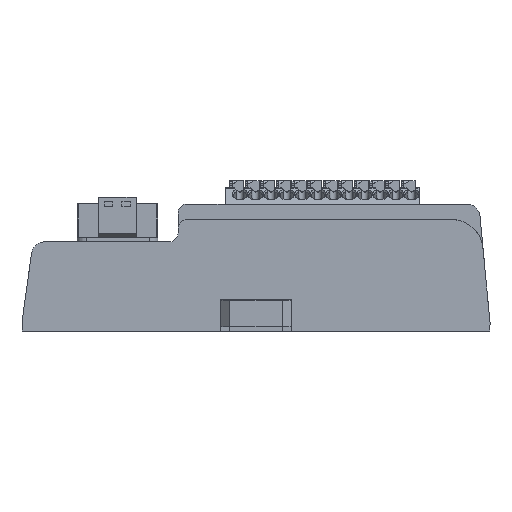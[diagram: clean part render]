
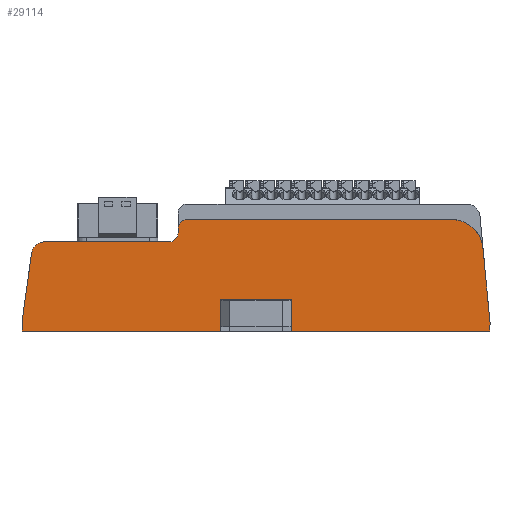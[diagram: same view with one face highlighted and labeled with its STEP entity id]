
A CAD part, top view. The second image highlights one B-rep face of the part: STEP entity #29114.
In plain terms, the highlighted planar face has unit normal (0, 0, 1).
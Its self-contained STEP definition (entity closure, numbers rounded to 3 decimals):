
#29 = VERTEX_POINT ( 'NONE', #50825 ) ;
#166 = DIRECTION ( 'NONE',  ( -1., 0., 0. ) ) ;
#835 = CARTESIAN_POINT ( 'NONE',  ( 44.5, 0., 0. ) ) ;
#1308 = DIRECTION ( 'NONE',  ( 0.096, -0.995, 0. ) ) ;
#1604 = DIRECTION ( 'NONE',  ( 0., 0., 1. ) ) ;
#1633 = VERTEX_POINT ( 'NONE', #54902 ) ;
#2073 = DIRECTION ( 'NONE',  ( 0., 1., 0. ) ) ;
#2233 = VECTOR ( 'NONE', #40615, 1000. ) ;
#2801 = ORIENTED_EDGE ( 'NONE', *, *, #26479, .T. ) ;
#3192 = ORIENTED_EDGE ( 'NONE', *, *, #72567, .T. ) ;
#3533 = EDGE_CURVE ( 'NONE', #57218, #36309, #60842, .T. ) ;
#4576 = LINE ( 'NONE', #17641, #19164 ) ;
#5619 = VERTEX_POINT ( 'NONE', #23815 ) ;
#6783 = EDGE_CURVE ( 'NONE', #48649, #26790, #64199, .T. ) ;
#6987 = DIRECTION ( 'NONE',  ( 0., 1., 0. ) ) ;
#8419 = CARTESIAN_POINT ( 'NONE',  ( 2.141, 17.413, 0. ) ) ;
#8467 = ORIENTED_EDGE ( 'NONE', *, *, #15956, .F. ) ;
#8541 = LINE ( 'NONE', #50596, #68571 ) ;
#8873 = ORIENTED_EDGE ( 'NONE', *, *, #10045, .T. ) ;
#10045 = EDGE_CURVE ( 'NONE', #63197, #37161, #58701, .T. ) ;
#10269 = CIRCLE ( 'NONE', #50407, 2. ) ;
#10775 = CARTESIAN_POINT ( 'NONE',  ( 5.112, 17., 0. ) ) ;
#11495 = VECTOR ( 'NONE', #68243, 1000. ) ;
#12181 = ORIENTED_EDGE ( 'NONE', *, *, #23769, .T. ) ;
#13239 = EDGE_CURVE ( 'NONE', #59435, #20177, #32972, .T. ) ;
#13959 = LINE ( 'NONE', #57830, #46852 ) ;
#14439 = LINE ( 'NONE', #23464, #45385 ) ;
#15550 = ORIENTED_EDGE ( 'NONE', *, *, #50065, .F. ) ;
#15582 = CARTESIAN_POINT ( 'NONE',  ( 0., 0., 0. ) ) ;
#15956 = EDGE_CURVE ( 'NONE', #34778, #26790, #14439, .T. ) ;
#17000 = DIRECTION ( 'NONE',  ( 1., 0., 0. ) ) ;
#17641 = CARTESIAN_POINT ( 'NONE',  ( 0., 25., 0. ) ) ;
#19164 = VECTOR ( 'NONE', #48438, 1000. ) ;
#20057 = CARTESIAN_POINT ( 'NONE',  ( -0.273, 0.038, 0. ) ) ;
#20177 = VERTEX_POINT ( 'NONE', #35059 ) ;
#22576 = AXIS2_PLACEMENT_3D ( 'NONE', #44591, #1604, #44864 ) ;
#23371 = DIRECTION ( 'NONE',  ( -1., 0., 0. ) ) ;
#23464 = CARTESIAN_POINT ( 'NONE',  ( 0., 0., 0. ) ) ;
#23769 = EDGE_CURVE ( 'NONE', #45608, #59435, #58187, .T. ) ;
#23815 = CARTESIAN_POINT ( 'NONE',  ( 103.397, 18.67, 0. ) ) ;
#25150 = DIRECTION ( 'NONE',  ( -1., 0., 0. ) ) ;
#25228 = DIRECTION ( 'NONE',  ( 0., 0., -1. ) ) ;
#25392 = CARTESIAN_POINT ( 'NONE',  ( 33., 22., 0. ) ) ;
#25764 = CARTESIAN_POINT ( 'NONE',  ( 96.429, 25., 0. ) ) ;
#26479 = EDGE_CURVE ( 'NONE', #29, #45608, #10269, .T. ) ;
#26790 = VERTEX_POINT ( 'NONE', #15582 ) ;
#28428 = CARTESIAN_POINT ( 'NONE',  ( 35., 22., 0. ) ) ;
#28829 = VECTOR ( 'NONE', #1308, 1000. ) ;
#29114 = ADVANCED_FACE ( 'NONE', ( #33364 ), #63279, .T. ) ;
#31765 = CARTESIAN_POINT ( 'NONE',  ( 60.5, 7., 0. ) ) ;
#32165 = CARTESIAN_POINT ( 'NONE',  ( 44.5, 0., 0. ) ) ;
#32972 = CIRCLE ( 'NONE', #67825, 2. ) ;
#33077 = AXIS2_PLACEMENT_3D ( 'NONE', #10775, #54058, #17000 ) ;
#33364 = FACE_OUTER_BOUND ( 'NONE', #64055, .T. ) ;
#34778 = VERTEX_POINT ( 'NONE', #32165 ) ;
#35059 = CARTESIAN_POINT ( 'NONE',  ( 33., 20., 0. ) ) ;
#36309 = VERTEX_POINT ( 'NONE', #62527 ) ;
#36336 = DIRECTION ( 'NONE',  ( 0., 0., 1. ) ) ;
#36478 = EDGE_CURVE ( 'NONE', #52871, #29, #4576, .T. ) ;
#37134 = DIRECTION ( 'NONE',  ( 0., 0., 1. ) ) ;
#37161 = VERTEX_POINT ( 'NONE', #31765 ) ;
#38891 = DIRECTION ( 'NONE',  ( 0.138, 0.99, 0. ) ) ;
#39119 = CARTESIAN_POINT ( 'NONE',  ( 35., 23., 0. ) ) ;
#40353 = ORIENTED_EDGE ( 'NONE', *, *, #6783, .T. ) ;
#40615 = DIRECTION ( 'NONE',  ( 0., -1., 0. ) ) ;
#40772 = CARTESIAN_POINT ( 'NONE',  ( 0., 0., 0. ) ) ;
#40908 = ORIENTED_EDGE ( 'NONE', *, *, #79099, .T. ) ;
#40997 = CARTESIAN_POINT ( 'NONE',  ( 44.5, 7., 0. ) ) ;
#42018 = EDGE_CURVE ( 'NONE', #20177, #1633, #51899, .T. ) ;
#42209 = VECTOR ( 'NONE', #48454, 1000. ) ;
#42410 = VECTOR ( 'NONE', #6987, 1000. ) ;
#43361 = EDGE_CURVE ( 'NONE', #1633, #68568, #61372, .T. ) ;
#43644 = CARTESIAN_POINT ( 'NONE',  ( 35., 0., 0. ) ) ;
#44555 = ORIENTED_EDGE ( 'NONE', *, *, #36478, .T. ) ;
#44591 = CARTESIAN_POINT ( 'NONE',  ( 0., 0., 0. ) ) ;
#44864 = DIRECTION ( 'NONE',  ( 1., 0., 0. ) ) ;
#45385 = VECTOR ( 'NONE', #23371, 1000. ) ;
#45608 = VERTEX_POINT ( 'NONE', #39119 ) ;
#46852 = VECTOR ( 'NONE', #2073, 1000. ) ;
#47428 = ORIENTED_EDGE ( 'NONE', *, *, #69366, .T. ) ;
#48438 = DIRECTION ( 'NONE',  ( -1., 0., 0. ) ) ;
#48454 = DIRECTION ( 'NONE',  ( 1., 0., 0. ) ) ;
#48649 = VERTEX_POINT ( 'NONE', #67563 ) ;
#49446 = CARTESIAN_POINT ( 'NONE',  ( 44.5, 7., 0. ) ) ;
#49952 = VECTOR ( 'NONE', #64559, 1000. ) ;
#50065 = EDGE_CURVE ( 'NONE', #48649, #68568, #73765, .T. ) ;
#50407 = AXIS2_PLACEMENT_3D ( 'NONE', #73422, #36336, #79546 ) ;
#50596 = CARTESIAN_POINT ( 'NONE',  ( 60.5, 7., 0. ) ) ;
#50825 = CARTESIAN_POINT ( 'NONE',  ( 37., 25., 0. ) ) ;
#51457 = ORIENTED_EDGE ( 'NONE', *, *, #79590, .T. ) ;
#51899 = LINE ( 'NONE', #58613, #49952 ) ;
#52359 = VECTOR ( 'NONE', #62059, 1000. ) ;
#52871 = VERTEX_POINT ( 'NONE', #25764 ) ;
#54058 = DIRECTION ( 'NONE',  ( 0., 0., 1. ) ) ;
#54518 = AXIS2_PLACEMENT_3D ( 'NONE', #74211, #37134, #166 ) ;
#54902 = CARTESIAN_POINT ( 'NONE',  ( 5.112, 20., 0. ) ) ;
#56856 = DIRECTION ( 'NONE',  ( 0., -1., 0. ) ) ;
#57218 = VERTEX_POINT ( 'NONE', #74159 ) ;
#57372 = VECTOR ( 'NONE', #38891, 1000. ) ;
#57830 = CARTESIAN_POINT ( 'NONE',  ( 105., 0., 0. ) ) ;
#58187 = LINE ( 'NONE', #43644, #52359 ) ;
#58577 = ORIENTED_EDGE ( 'NONE', *, *, #3533, .F. ) ;
#58613 = CARTESIAN_POINT ( 'NONE',  ( 0., 20., 0. ) ) ;
#58701 = LINE ( 'NONE', #49446, #42209 ) ;
#59435 = VERTEX_POINT ( 'NONE', #28428 ) ;
#60296 = EDGE_CURVE ( 'NONE', #5619, #77095, #61788, .T. ) ;
#60842 = LINE ( 'NONE', #69118, #11495 ) ;
#61372 = CIRCLE ( 'NONE', #33077, 3. ) ;
#61788 = LINE ( 'NONE', #75361, #28829 ) ;
#62059 = DIRECTION ( 'NONE',  ( 0., -1., 0. ) ) ;
#62527 = CARTESIAN_POINT ( 'NONE',  ( 60.5, 0., 0. ) ) ;
#63197 = VERTEX_POINT ( 'NONE', #40997 ) ;
#63279 = PLANE ( 'NONE',  #22576 ) ;
#64055 = EDGE_LOOP ( 'NONE', ( #15550, #40353, #8467, #47428, #8873, #40908, #58577, #3192, #76940, #51457, #44555, #2801, #12181, #73459, #77545, #64443 ) ) ;
#64199 = LINE ( 'NONE', #40772, #2233 ) ;
#64443 = ORIENTED_EDGE ( 'NONE', *, *, #43361, .T. ) ;
#64559 = DIRECTION ( 'NONE',  ( -1., 0., 0. ) ) ;
#67563 = CARTESIAN_POINT ( 'NONE',  ( 0., 2., 0. ) ) ;
#67825 = AXIS2_PLACEMENT_3D ( 'NONE', #25392, #25228, #25150 ) ;
#68243 = DIRECTION ( 'NONE',  ( -1., 0., 0. ) ) ;
#68492 = CIRCLE ( 'NONE', #54518, 7. ) ;
#68568 = VERTEX_POINT ( 'NONE', #8419 ) ;
#68571 = VECTOR ( 'NONE', #56856, 1000. ) ;
#69118 = CARTESIAN_POINT ( 'NONE',  ( 0., 0., 0. ) ) ;
#69366 = EDGE_CURVE ( 'NONE', #34778, #63197, #79083, .T. ) ;
#72567 = EDGE_CURVE ( 'NONE', #57218, #77095, #13959, .T. ) ;
#73422 = CARTESIAN_POINT ( 'NONE',  ( 37., 23., 0. ) ) ;
#73459 = ORIENTED_EDGE ( 'NONE', *, *, #13239, .T. ) ;
#73765 = LINE ( 'NONE', #20057, #57372 ) ;
#74159 = CARTESIAN_POINT ( 'NONE',  ( 105., 0., 0. ) ) ;
#74211 = CARTESIAN_POINT ( 'NONE',  ( 96.429, 18., 0. ) ) ;
#75361 = CARTESIAN_POINT ( 'NONE',  ( 104.229, 10.022, 0. ) ) ;
#76940 = ORIENTED_EDGE ( 'NONE', *, *, #60296, .F. ) ;
#77095 = VERTEX_POINT ( 'NONE', #77908 ) ;
#77545 = ORIENTED_EDGE ( 'NONE', *, *, #42018, .T. ) ;
#77908 = CARTESIAN_POINT ( 'NONE',  ( 105., 2., 0. ) ) ;
#79083 = LINE ( 'NONE', #835, #42410 ) ;
#79099 = EDGE_CURVE ( 'NONE', #37161, #36309, #8541, .T. ) ;
#79546 = DIRECTION ( 'NONE',  ( -1., 0., 0. ) ) ;
#79590 = EDGE_CURVE ( 'NONE', #5619, #52871, #68492, .T. ) ;
